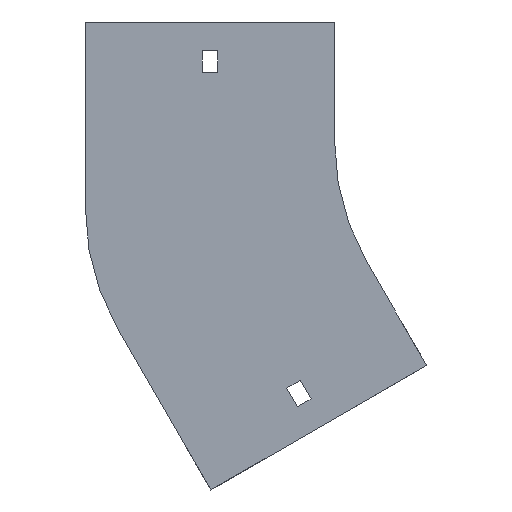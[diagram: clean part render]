
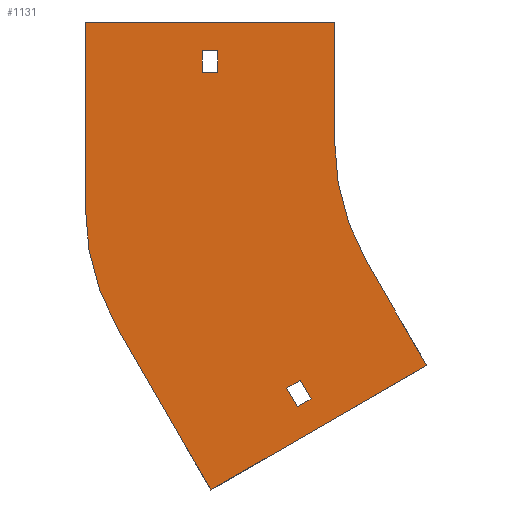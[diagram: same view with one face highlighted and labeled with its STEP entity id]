
A CAD part, front view. The second image highlights one B-rep face of the part: STEP entity #1131.
In plain terms, the highlighted planar face has unit normal (0, -1, 0).
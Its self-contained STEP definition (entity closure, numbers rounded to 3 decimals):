
#3 = CARTESIAN_POINT ( 'NONE',  ( -148.75, 0., 29. ) ) ;
#26 = CARTESIAN_POINT ( 'NONE',  ( 0., 0., 0. ) ) ;
#33 = LINE ( 'NONE', #226, #223 ) ;
#77 = VECTOR ( 'NONE', #774, 1000. ) ;
#82 = LINE ( 'NONE', #687, #723 ) ;
#85 = ORIENTED_EDGE ( 'NONE', *, *, #526, .F. ) ;
#100 = DIRECTION ( 'NONE',  ( 0.866, 0., 0.5 ) ) ;
#107 = VERTEX_POINT ( 'NONE', #1585 ) ;
#112 = CIRCLE ( 'NONE', #268, 100. ) ;
#117 = ORIENTED_EDGE ( 'NONE', *, *, #1759, .T. ) ;
#135 = CARTESIAN_POINT ( 'NONE',  ( -86.603, 0., -50. ) ) ;
#149 = LINE ( 'NONE', #424, #1175 ) ;
#175 = FACE_BOUND ( 'NONE', #660, .T. ) ;
#220 = EDGE_CURVE ( 'NONE', #986, #1558, #33, .T. ) ;
#223 = VECTOR ( 'NONE', #827, 1000. ) ;
#226 = CARTESIAN_POINT ( 'NONE',  ( -119.95, 0., -102.74 ) ) ;
#242 = VERTEX_POINT ( 'NONE', #803 ) ;
#268 = AXIS2_PLACEMENT_3D ( 'NONE', #1908, #998, #1320 ) ;
#269 = CARTESIAN_POINT ( 'NONE',  ( -155.25, 0., 38. ) ) ;
#271 = ORIENTED_EDGE ( 'NONE', *, *, #1459, .F. ) ;
#289 = LINE ( 'NONE', #1939, #1301 ) ;
#290 = EDGE_LOOP ( 'NONE', ( #1877, #1698, #117, #938 ) ) ;
#296 = ORIENTED_EDGE ( 'NONE', *, *, #1905, .F. ) ;
#309 = VECTOR ( 'NONE', #602, 1000. ) ;
#338 = VERTEX_POINT ( 'NONE', #391 ) ;
#357 = VECTOR ( 'NONE', #1470, 1000. ) ;
#363 = DIRECTION ( 'NONE',  ( 0., 0., -1. ) ) ;
#386 = LINE ( 'NONE', #1594, #357 ) ;
#391 = CARTESIAN_POINT ( 'NONE',  ( -204., 0., -27.867 ) ) ;
#394 = ORIENTED_EDGE ( 'NONE', *, *, #1068, .F. ) ;
#408 = DIRECTION ( 'NONE',  ( -1., 0., 0. ) ) ;
#410 = EDGE_CURVE ( 'NONE', #338, #1727, #289, .T. ) ;
#417 = CARTESIAN_POINT ( 'NONE',  ( -155.25, 0., 29. ) ) ;
#424 = CARTESIAN_POINT ( 'NONE',  ( -204., 0., 50. ) ) ;
#449 = EDGE_CURVE ( 'NONE', #1744, #242, #1335, .T. ) ;
#452 = VECTOR ( 'NONE', #575, 1000. ) ;
#474 = ORIENTED_EDGE ( 'NONE', *, *, #1629, .F. ) ;
#487 = CARTESIAN_POINT ( 'NONE',  ( -114.321, 0., -99.49 ) ) ;
#517 = VERTEX_POINT ( 'NONE', #885 ) ;
#526 = EDGE_CURVE ( 'NONE', #517, #752, #1920, .T. ) ;
#550 = VERTEX_POINT ( 'NONE', #743 ) ;
#565 = LINE ( 'NONE', #417, #750 ) ;
#571 = ORIENTED_EDGE ( 'NONE', *, *, #1010, .F. ) ;
#575 = DIRECTION ( 'NONE',  ( 1., 0., 0. ) ) ;
#598 = CARTESIAN_POINT ( 'NONE',  ( 0., 0., 0. ) ) ;
#602 = DIRECTION ( 'NONE',  ( 0., 0., -1. ) ) ;
#607 = CARTESIAN_POINT ( 'NONE',  ( -148.75, 0., 29. ) ) ;
#660 = EDGE_LOOP ( 'NONE', ( #1773, #1681, #394, #996 ) ) ;
#676 = LINE ( 'NONE', #1273, #1795 ) ;
#687 = CARTESIAN_POINT ( 'NONE',  ( -61.603, 0., -93.301 ) ) ;
#721 = CARTESIAN_POINT ( 'NONE',  ( -155.25, 0., 29. ) ) ;
#723 = VECTOR ( 'NONE', #1284, 1000. ) ;
#743 = CARTESIAN_POINT ( 'NONE',  ( -151.669, 0., -145.301 ) ) ;
#746 = DIRECTION ( 'NONE',  ( 1., 0., 0. ) ) ;
#750 = VECTOR ( 'NONE', #408, 1000. ) ;
#752 = VERTEX_POINT ( 'NONE', #824 ) ;
#774 = DIRECTION ( 'NONE',  ( 0., 0., -1. ) ) ;
#799 = EDGE_CURVE ( 'NONE', #1616, #338, #112, .T. ) ;
#803 = CARTESIAN_POINT ( 'NONE',  ( -148.75, 0., 38. ) ) ;
#808 = EDGE_CURVE ( 'NONE', #550, #1616, #386, .T. ) ;
#824 = CARTESIAN_POINT ( 'NONE',  ( -61.603, 0., -93.301 ) ) ;
#827 = DIRECTION ( 'NONE',  ( 0.5, 0., -0.866 ) ) ;
#853 = EDGE_CURVE ( 'NONE', #1558, #950, #1132, .T. ) ;
#854 = DIRECTION ( 'NONE',  ( 0., 0., 1. ) ) ;
#874 = LINE ( 'NONE', #3, #309 ) ;
#882 = AXIS2_PLACEMENT_3D ( 'NONE', #598, #1949, #1802 ) ;
#885 = CARTESIAN_POINT ( 'NONE',  ( -86.603, 0., -50. ) ) ;
#899 = VERTEX_POINT ( 'NONE', #607 ) ;
#912 = CIRCLE ( 'NONE', #882, 100. ) ;
#926 = LINE ( 'NONE', #1530, #77 ) ;
#938 = ORIENTED_EDGE ( 'NONE', *, *, #1695, .T. ) ;
#946 = LINE ( 'NONE', #1549, #1592 ) ;
#948 = PLANE ( 'NONE',  #978 ) ;
#950 = VERTEX_POINT ( 'NONE', #1663 ) ;
#978 = AXIS2_PLACEMENT_3D ( 'NONE', #26, #1550, #363 ) ;
#986 = VERTEX_POINT ( 'NONE', #1340 ) ;
#996 = ORIENTED_EDGE ( 'NONE', *, *, #1006, .F. ) ;
#998 = DIRECTION ( 'NONE',  ( 0., 1., 0. ) ) ;
#1006 = EDGE_CURVE ( 'NONE', #950, #1843, #1217, .T. ) ;
#1010 = EDGE_CURVE ( 'NONE', #1727, #107, #149, .T. ) ;
#1022 = CARTESIAN_POINT ( 'NONE',  ( -155.25, 0., 38. ) ) ;
#1060 = EDGE_LOOP ( 'NONE', ( #571, #1138, #1835, #1516, #474, #85, #271, #296 ) ) ;
#1068 = EDGE_CURVE ( 'NONE', #1843, #986, #946, .T. ) ;
#1078 = DIRECTION ( 'NONE',  ( -0.866, 0., -0.5 ) ) ;
#1114 = VECTOR ( 'NONE', #100, 1000. ) ;
#1131 = ADVANCED_FACE ( 'NONE', ( #1527, #1845, #175 ), #948, .T. ) ;
#1132 = LINE ( 'NONE', #1738, #1114 ) ;
#1138 = ORIENTED_EDGE ( 'NONE', *, *, #410, .F. ) ;
#1155 = CARTESIAN_POINT ( 'NONE',  ( -115.45, 0., -110.534 ) ) ;
#1161 = VERTEX_POINT ( 'NONE', #1397 ) ;
#1175 = VECTOR ( 'NONE', #746, 1000. ) ;
#1205 = EDGE_CURVE ( 'NONE', #1355, #1744, #676, .T. ) ;
#1217 = LINE ( 'NONE', #1357, #1331 ) ;
#1273 = CARTESIAN_POINT ( 'NONE',  ( -155.25, 0., 29. ) ) ;
#1284 = DIRECTION ( 'NONE',  ( -0.866, 0., -0.5 ) ) ;
#1301 = VECTOR ( 'NONE', #854, 1000. ) ;
#1320 = DIRECTION ( 'NONE',  ( 0., 0., 1. ) ) ;
#1331 = VECTOR ( 'NONE', #1499, 1000. ) ;
#1335 = LINE ( 'NONE', #1022, #452 ) ;
#1340 = CARTESIAN_POINT ( 'NONE',  ( -119.95, 0., -102.74 ) ) ;
#1355 = VERTEX_POINT ( 'NONE', #721 ) ;
#1357 = CARTESIAN_POINT ( 'NONE',  ( -114.321, 0., -99.49 ) ) ;
#1397 = CARTESIAN_POINT ( 'NONE',  ( -100., 0., 0. ) ) ;
#1434 = CARTESIAN_POINT ( 'NONE',  ( -190.603, 0., -77.867 ) ) ;
#1459 = EDGE_CURVE ( 'NONE', #1161, #517, #912, .T. ) ;
#1470 = DIRECTION ( 'NONE',  ( -0.5, 0., 0.866 ) ) ;
#1485 = DIRECTION ( 'NONE',  ( 0.5, 0., -0.866 ) ) ;
#1499 = DIRECTION ( 'NONE',  ( -0.5, 0., 0.866 ) ) ;
#1516 = ORIENTED_EDGE ( 'NONE', *, *, #808, .F. ) ;
#1527 = FACE_BOUND ( 'NONE', #290, .T. ) ;
#1530 = CARTESIAN_POINT ( 'NONE',  ( -100., 0., 50. ) ) ;
#1549 = CARTESIAN_POINT ( 'NONE',  ( -119.95, 0., -102.74 ) ) ;
#1550 = DIRECTION ( 'NONE',  ( 0., -1., 0. ) ) ;
#1558 = VERTEX_POINT ( 'NONE', #1155 ) ;
#1585 = CARTESIAN_POINT ( 'NONE',  ( -100., 0., 50. ) ) ;
#1592 = VECTOR ( 'NONE', #1078, 1000. ) ;
#1594 = CARTESIAN_POINT ( 'NONE',  ( -151.669, 0., -145.301 ) ) ;
#1616 = VERTEX_POINT ( 'NONE', #1434 ) ;
#1629 = EDGE_CURVE ( 'NONE', #752, #550, #82, .T. ) ;
#1663 = CARTESIAN_POINT ( 'NONE',  ( -109.821, 0., -107.284 ) ) ;
#1681 = ORIENTED_EDGE ( 'NONE', *, *, #220, .F. ) ;
#1695 = EDGE_CURVE ( 'NONE', #899, #1355, #565, .T. ) ;
#1698 = ORIENTED_EDGE ( 'NONE', *, *, #449, .T. ) ;
#1727 = VERTEX_POINT ( 'NONE', #1930 ) ;
#1738 = CARTESIAN_POINT ( 'NONE',  ( -115.45, 0., -110.534 ) ) ;
#1744 = VERTEX_POINT ( 'NONE', #269 ) ;
#1747 = VECTOR ( 'NONE', #1485, 1000. ) ;
#1759 = EDGE_CURVE ( 'NONE', #242, #899, #874, .T. ) ;
#1773 = ORIENTED_EDGE ( 'NONE', *, *, #853, .F. ) ;
#1795 = VECTOR ( 'NONE', #1880, 1000. ) ;
#1802 = DIRECTION ( 'NONE',  ( 0., 0., -1. ) ) ;
#1835 = ORIENTED_EDGE ( 'NONE', *, *, #799, .F. ) ;
#1843 = VERTEX_POINT ( 'NONE', #487 ) ;
#1845 = FACE_OUTER_BOUND ( 'NONE', #1060, .T. ) ;
#1877 = ORIENTED_EDGE ( 'NONE', *, *, #1205, .T. ) ;
#1880 = DIRECTION ( 'NONE',  ( 0., 0., 1. ) ) ;
#1905 = EDGE_CURVE ( 'NONE', #107, #1161, #926, .T. ) ;
#1908 = CARTESIAN_POINT ( 'NONE',  ( -104., 0., -27.867 ) ) ;
#1920 = LINE ( 'NONE', #135, #1747 ) ;
#1930 = CARTESIAN_POINT ( 'NONE',  ( -204., 0., 50. ) ) ;
#1939 = CARTESIAN_POINT ( 'NONE',  ( -204., 0., -27.867 ) ) ;
#1949 = DIRECTION ( 'NONE',  ( 0., -1., 0. ) ) ;
